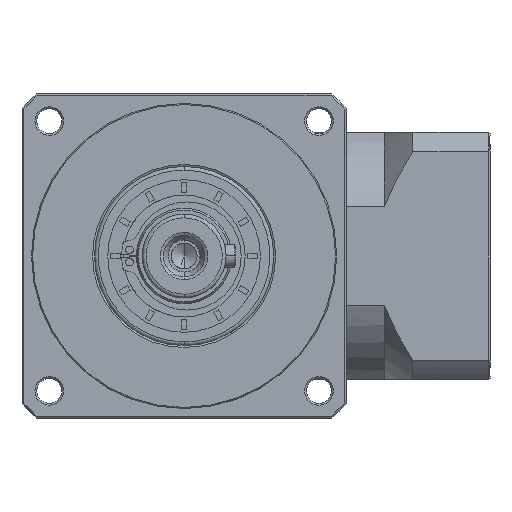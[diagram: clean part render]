
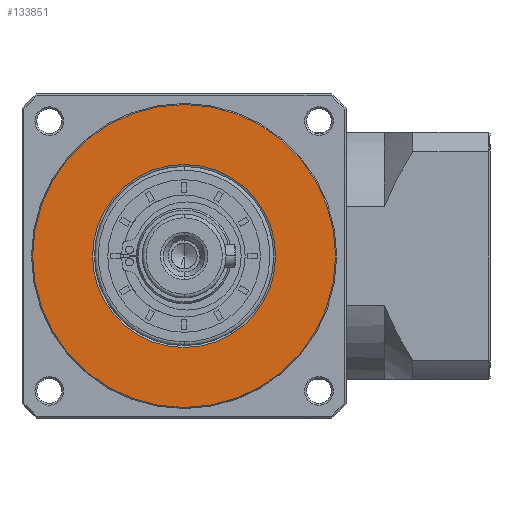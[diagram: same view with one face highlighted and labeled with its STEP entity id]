
A CAD part, left-side view. The second image highlights one B-rep face of the part: STEP entity #133851.
In plain terms, the highlighted planar face has unit normal (-1, 0, 0).
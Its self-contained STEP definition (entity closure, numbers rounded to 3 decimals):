
#487 = EDGE_LOOP ( 'NONE', ( #21557, #26398 ) ) ;
#13830 = ORIENTED_EDGE ( 'NONE', *, *, #124698, .F. ) ;
#15514 = CARTESIAN_POINT ( 'NONE',  ( -249.942, -91.835, -353.049 ) ) ;
#16688 = EDGE_CURVE ( 'NONE', #33128, #42574, #91496, .T. ) ;
#21557 = ORIENTED_EDGE ( 'NONE', *, *, #48900, .T. ) ;
#22008 = AXIS2_PLACEMENT_3D ( 'NONE', #30000, #126402, #43926 ) ;
#25186 = VERTEX_POINT ( 'NONE', #25291 ) ;
#25291 = CARTESIAN_POINT ( 'NONE',  ( -249.942, -131.546, -353.049 ) ) ;
#26398 = ORIENTED_EDGE ( 'NONE', *, *, #16688, .T. ) ;
#29319 = DIRECTION ( 'NONE',  ( 0., 0., -1. ) ) ;
#30000 = CARTESIAN_POINT ( 'NONE',  ( -249.942, -91.835, -353.049 ) ) ;
#33128 = VERTEX_POINT ( 'NONE', #131559 ) ;
#37362 = AXIS2_PLACEMENT_3D ( 'NONE', #132578, #50198, #146452 ) ;
#41493 = VERTEX_POINT ( 'NONE', #104638 ) ;
#42298 = DIRECTION ( 'NONE',  ( -1., 0., 0. ) ) ;
#42574 = VERTEX_POINT ( 'NONE', #126223 ) ;
#43926 = DIRECTION ( 'NONE',  ( 0., 1., 0. ) ) ;
#48900 = EDGE_CURVE ( 'NONE', #42574, #33128, #52064, .T. ) ;
#50198 = DIRECTION ( 'NONE',  ( 1., 0., 0. ) ) ;
#52064 = CIRCLE ( 'NONE', #129129, 24. ) ;
#77912 = CARTESIAN_POINT ( 'NONE',  ( -249.942, -91.835, -353.049 ) ) ;
#91496 = CIRCLE ( 'NONE', #99070, 24. ) ;
#91798 = DIRECTION ( 'NONE',  ( 0., 0., -1. ) ) ;
#99070 = AXIS2_PLACEMENT_3D ( 'NONE', #77912, #174166, #91798 ) ;
#104638 = CARTESIAN_POINT ( 'NONE',  ( -249.942, -52.124, -353.049 ) ) ;
#111890 = DIRECTION ( 'NONE',  ( 1., 0., 0. ) ) ;
#119661 = FACE_BOUND ( 'NONE', #487, .T. ) ;
#124698 = EDGE_CURVE ( 'NONE', #25186, #41493, #165477, .T. ) ;
#124792 = CARTESIAN_POINT ( 'NONE',  ( -249.942, -91.835, -353.049 ) ) ;
#126223 = CARTESIAN_POINT ( 'NONE',  ( -249.942, -91.835, -377.049 ) ) ;
#126402 = DIRECTION ( 'NONE',  ( 1., 0., 0. ) ) ;
#126847 = ORIENTED_EDGE ( 'NONE', *, *, #157712, .F. ) ;
#128196 = EDGE_LOOP ( 'NONE', ( #126847, #13830 ) ) ;
#129129 = AXIS2_PLACEMENT_3D ( 'NONE', #15514, #111890, #29319 ) ;
#131559 = CARTESIAN_POINT ( 'NONE',  ( -249.942, -91.835, -329.049 ) ) ;
#132578 = CARTESIAN_POINT ( 'NONE',  ( -249.942, -91.835, -353.049 ) ) ;
#133851 = ADVANCED_FACE ( 'NONE', ( #156140, #119661 ), #165564, .T. ) ;
#138533 = DIRECTION ( 'NONE',  ( 0., 0., -1. ) ) ;
#144037 = CIRCLE ( 'NONE', #37362, 39.711 ) ;
#146452 = DIRECTION ( 'NONE',  ( 0., 1., 0. ) ) ;
#156140 = FACE_OUTER_BOUND ( 'NONE', #128196, .T. ) ;
#157712 = EDGE_CURVE ( 'NONE', #41493, #25186, #144037, .T. ) ;
#165477 = CIRCLE ( 'NONE', #22008, 39.711 ) ;
#165564 = PLANE ( 'NONE',  #174858 ) ;
#174166 = DIRECTION ( 'NONE',  ( 1., 0., 0. ) ) ;
#174858 = AXIS2_PLACEMENT_3D ( 'NONE', #124792, #42298, #138533 ) ;
